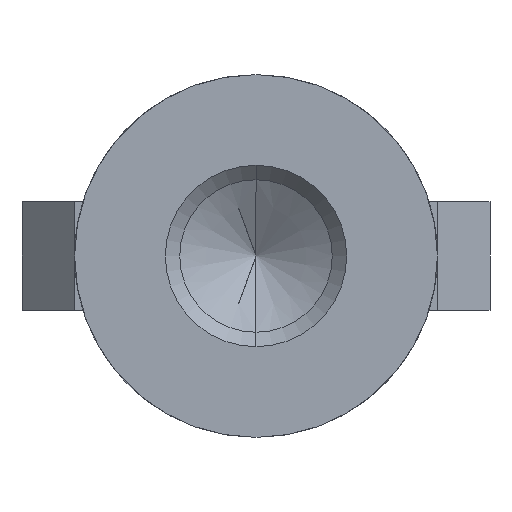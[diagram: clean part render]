
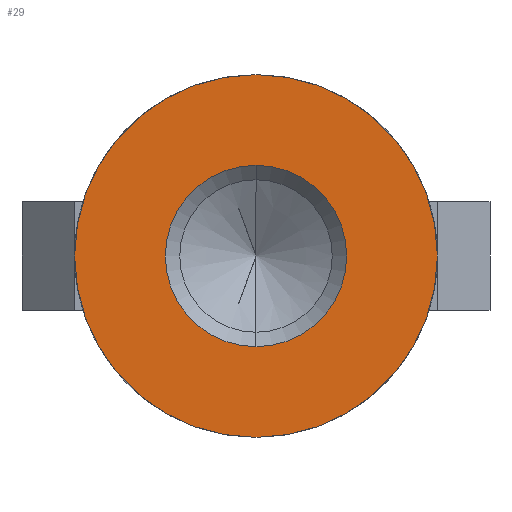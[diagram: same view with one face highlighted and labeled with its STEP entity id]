
A CAD part, front view. The second image highlights one B-rep face of the part: STEP entity #29.
In plain terms, the highlighted planar face has unit normal (0, -1, 0).
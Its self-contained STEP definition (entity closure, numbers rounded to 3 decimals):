
#7 = CARTESIAN_POINT ( 'NONE',  ( 0., 0., 2.5 ) ) ;
#24 = DIRECTION ( 'NONE',  ( 0., -1., 0. ) ) ;
#27 = CARTESIAN_POINT ( 'NONE',  ( 0., 0., -5. ) ) ;
#29 = ADVANCED_FACE ( 'NONE', ( #88, #745 ), #48, .F. ) ;
#38 = AXIS2_PLACEMENT_3D ( 'NONE', #131, #565, #203 ) ;
#44 = AXIS2_PLACEMENT_3D ( 'NONE', #177, #741, #610 ) ;
#48 = PLANE ( 'NONE',  #44 ) ;
#51 = CARTESIAN_POINT ( 'NONE',  ( 0., 0., 0. ) ) ;
#58 = EDGE_CURVE ( 'NONE', #611, #357, #250, .T. ) ;
#88 = FACE_BOUND ( 'NONE', #757, .T. ) ;
#110 = DIRECTION ( 'NONE',  ( 0., 1., 0. ) ) ;
#126 = EDGE_LOOP ( 'NONE', ( #291, #437 ) ) ;
#131 = CARTESIAN_POINT ( 'NONE',  ( 0., 0., 0. ) ) ;
#160 = DIRECTION ( 'NONE',  ( 0., 0., -1. ) ) ;
#177 = CARTESIAN_POINT ( 'NONE',  ( 0., 0., 0. ) ) ;
#179 = ORIENTED_EDGE ( 'NONE', *, *, #667, .F. ) ;
#203 = DIRECTION ( 'NONE',  ( 0., 0., -1. ) ) ;
#225 = CIRCLE ( 'NONE', #38, 2.5 ) ;
#250 = CIRCLE ( 'NONE', #472, 5. ) ;
#283 = CARTESIAN_POINT ( 'NONE',  ( 0., 0., 0. ) ) ;
#291 = ORIENTED_EDGE ( 'NONE', *, *, #367, .F. ) ;
#318 = VERTEX_POINT ( 'NONE', #322 ) ;
#320 = ORIENTED_EDGE ( 'NONE', *, *, #354, .F. ) ;
#322 = CARTESIAN_POINT ( 'NONE',  ( 0., 0., -2.5 ) ) ;
#337 = CIRCLE ( 'NONE', #414, 2.5 ) ;
#354 = EDGE_CURVE ( 'NONE', #318, #791, #337, .T. ) ;
#357 = VERTEX_POINT ( 'NONE', #27 ) ;
#367 = EDGE_CURVE ( 'NONE', #357, #611, #575, .T. ) ;
#387 = CARTESIAN_POINT ( 'NONE',  ( 0., 0., 5. ) ) ;
#414 = AXIS2_PLACEMENT_3D ( 'NONE', #462, #24, #160 ) ;
#437 = ORIENTED_EDGE ( 'NONE', *, *, #58, .F. ) ;
#447 = AXIS2_PLACEMENT_3D ( 'NONE', #283, #665, #779 ) ;
#462 = CARTESIAN_POINT ( 'NONE',  ( 0., 0., 0. ) ) ;
#472 = AXIS2_PLACEMENT_3D ( 'NONE', #51, #110, #612 ) ;
#565 = DIRECTION ( 'NONE',  ( 0., -1., 0. ) ) ;
#575 = CIRCLE ( 'NONE', #447, 5. ) ;
#610 = DIRECTION ( 'NONE',  ( 0., 0., 1. ) ) ;
#611 = VERTEX_POINT ( 'NONE', #387 ) ;
#612 = DIRECTION ( 'NONE',  ( 0., 0., 1. ) ) ;
#665 = DIRECTION ( 'NONE',  ( 0., 1., 0. ) ) ;
#667 = EDGE_CURVE ( 'NONE', #791, #318, #225, .T. ) ;
#741 = DIRECTION ( 'NONE',  ( 0., 1., 0. ) ) ;
#745 = FACE_OUTER_BOUND ( 'NONE', #126, .T. ) ;
#757 = EDGE_LOOP ( 'NONE', ( #320, #179 ) ) ;
#779 = DIRECTION ( 'NONE',  ( 0., 0., 1. ) ) ;
#791 = VERTEX_POINT ( 'NONE', #7 ) ;
